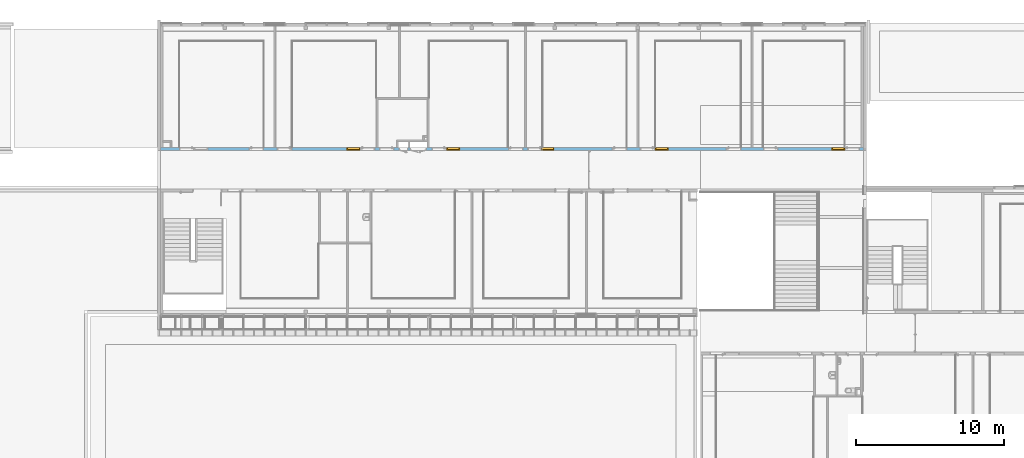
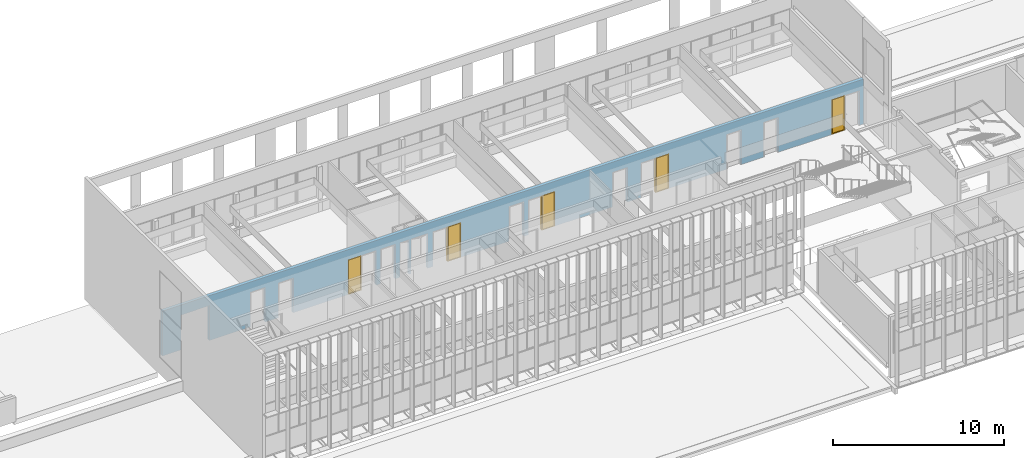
# One storey, part 61 of 106: 5 windows, 21 openings, plus 1 element that does not belong to this part.
"""IFC2X3 building model written with IfcOpenShell, lengths in centimetres."""

from ifc_helpers import new_model, entity, si_unit, converted_unit, derived_unit, direction, frame, frame_2d, origin, place, context, subcontext, project, spatial, polyline, rectangle, extrude, clip, bounded_halfspace, faceted_brep, source, transform, mapped, material, material_list, layer, layer_set, layer_usage, type_object, type_shapes, element, fill, save


model = new_model("IFC2X3")

# Units and contexts
model_context = context("Model", 3, precision=0.001, world=origin(), true_north=direction((6.12303176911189e-17, 1.0)))
body_context = subcontext(model_context, "Body", "Model", "MODEL_VIEW")
ifc_project = project(units=[si_unit("LENGTHUNIT", "METRE", prefix="CENTI"), si_unit("AREAUNIT", "SQUARE_METRE"), si_unit("VOLUMEUNIT", "CUBIC_METRE"), converted_unit("PLANEANGLEUNIT", "DEGREE", entity("IfcRatioMeasure", 0.0174532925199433), si_unit("PLANEANGLEUNIT", "RADIAN"), dimensions=[0, 0, 0, 0, 0, 0, 0]), si_unit("MASSUNIT", "GRAM", prefix="KILO"), derived_unit("MASSDENSITYUNIT", [(si_unit("MASSUNIT", "GRAM", prefix="KILO"), 1), (si_unit("LENGTHUNIT", "METRE"), -3)]), si_unit("TIMEUNIT", "SECOND"), si_unit("FREQUENCYUNIT", "HERTZ"), si_unit("THERMODYNAMICTEMPERATUREUNIT", "DEGREE_CELSIUS"), derived_unit("THERMALTRANSMITTANCEUNIT", [(si_unit("MASSUNIT", "GRAM", prefix="KILO"), 1), (si_unit("THERMODYNAMICTEMPERATUREUNIT", "KELVIN"), -1), (si_unit("TIMEUNIT", "SECOND"), -3)]), derived_unit("VOLUMETRICFLOWRATEUNIT", [(si_unit("LENGTHUNIT", "METRE"), 3), (si_unit("TIMEUNIT", "SECOND"), -1)]), si_unit("ELECTRICCURRENTUNIT", "AMPERE"), si_unit("ELECTRICVOLTAGEUNIT", "VOLT"), si_unit("POWERUNIT", "WATT"), si_unit("FORCEUNIT", "NEWTON", prefix="KILO"), si_unit("ILLUMINANCEUNIT", "LUX"), si_unit("LUMINOUSFLUXUNIT", "LUMEN"), si_unit("LUMINOUSINTENSITYUNIT", "CANDELA"), derived_unit("USERDEFINED", [(si_unit("MASSUNIT", "GRAM", prefix="KILO"), -1), (si_unit("LENGTHUNIT", "METRE"), -2), (si_unit("TIMEUNIT", "SECOND"), 3), (si_unit("LUMINOUSFLUXUNIT", "LUMEN"), 1)]), derived_unit("LINEARVELOCITYUNIT", [(si_unit("LENGTHUNIT", "METRE"), 1), (si_unit("TIMEUNIT", "SECOND"), -1)]), si_unit("PRESSUREUNIT", "PASCAL"), derived_unit("USERDEFINED", [(si_unit("LENGTHUNIT", "METRE"), -2), (si_unit("MASSUNIT", "GRAM", prefix="KILO"), 1), (si_unit("TIMEUNIT", "SECOND"), -2)])], contexts=[model_context])

# Site, building, storey
site_placement = place(None, frame((-2781.94577612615, 7442.24238424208, 0.0)))
site = spatial("IfcSite", under=ifc_project, at=site_placement, Name="Default", CompositionType="ELEMENT")
building_placement = place(site_placement, origin())
building = spatial("IfcBuilding", under=site, at=building_placement, CompositionType="ELEMENT")
storey_placement = place(building_placement, frame((0.0, 0.0, 422.0)))
storey = spatial("IfcBuildingStorey", under=building, at=storey_placement, Name="Toiture - Cuisine", CompositionType="ELEMENT", Elevation=421.999999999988)

# Wall, openings, windows
ifc_material_1 = material(Name="01 - Maçonnerie")
ifc_layer = layer(ifc_material_1, 20.0)
ifc_layer_set = layer_set([ifc_layer], Name="Mur de base:04 - Structure - béton - 20cm")
ifc_layer_usage = layer_usage(ifc_layer_set, "AXIS2", "NEGATIVE", 10.0)
wall_type = type_object("IfcWallType", Name="Mur de base:04 - Structure - béton - 20cm", PredefinedType="STANDARD", material=ifc_layer_set)
wall_placement = place(building_placement, frame((-8409.49987766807, -820.048500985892, 422.0)))
wall = element("IfcWallStandardCase", 1, at=wall_placement, inside=storey, type_object=wall_type, material=ifc_layer_usage, Name="Mur de base:04 - Structure - béton - 20cm", ObjectType="Mur de base:04 - Structure - béton - 20cm", context=body_context, shape_type="Clipping", body=[
    clip(extrude(rectangle(XDim=4741.49999798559, YDim=20.0, at=frame_2d((2370.74999899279, 2.04281036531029e-14), x_axis=(-1.0, 0.0))), origin(), (0.0, 0.0, 1.0), 321.0), bounded_halfspace(frame((4741.49999798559, -10.0, 321.0), z_axis=(0.0, 0.0, -1.0), x_axis=(0.0, 1.0, 0.0)), True, frame((4741.49999798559, -10.0, 321.0)), polyline([(0.0, 0.0), (0.0, 20.0), (-15.3000000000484, 20.0), (-125.300000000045, 20.0), (-127.300000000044, 20.0), (-675.800000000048, 20.0), (-677.800000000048, 20.0), (-745.800000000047, 20.0), (-755.800000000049, 20.0), (-825.800000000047, 20.0), (-827.800000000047, 20.0), (-1403.80000000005, 20.0), (-1405.80000000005, 20.0), (-1516.49999791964, 20.0), (-1526.49999791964, 20.0), (-1595.78709704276, 20.0), (-1597.78709704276, 20.0), (-2163.80000000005, 20.0), (-2165.80000000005, 20.0), (-2275.80000000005, 20.0), (-2285.80000000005, 20.0), (-2395.80000000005, 20.0), (-2397.80000000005, 20.0), (-2931.80000000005, 20.0), (-2941.80000000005, 20.0), (-3060.80000000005, 20.0), (-3070.80000000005, 20.0), (-3137.80000000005, 20.0), (-3147.80000000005, 20.0), (-3275.80000000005, 20.0), (-3285.80000000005, 20.0), (-3416.49999791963, 20.0), (-3535.80000000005, 20.0), (-3545.80000000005, 20.0), (-3611.80000000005, 20.0), (-3853.80000000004, 20.0), (-3855.80000000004, 20.0), (-3965.80000000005, 20.0), (-3975.80000000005, 20.0), (-4044.30000000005, 20.0), (-4046.30000000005, 20.0), (-4614.19999798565, 20.0), (-4616.19999798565, 20.0), (-4666.19999798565, 20.0), (-4676.19999798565, 20.0), (-4726.19999798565, 20.0), (-4741.49999798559, 20.0), (-4741.49999798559, 0.0), (-1854.0, 0.0), (-1844.0, 0.0), (-1840.0, 0.0), (0.0, 0.0)]))),
])
opening_1_placement = place(wall_placement, frame((1669.50000006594, 10.0, 0.0)))
element("IfcOpeningElement", 2, at=opening_1_placement, cuts=wall, Name="Int. Simple:PP Placard (0.55m x 2.50m):1", ObjectType="Opening", context=body_context, shape_type="SweptSolid", body=[
    extrude(rectangle(XDim=248.500000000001, YDim=61.9999999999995, at=frame_2d((124.250000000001, 30.9999999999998), x_axis=(1.0, 0.0))), frame((0.0, 0.0, 0.0), z_axis=(0.0, -1.0, 0.0), x_axis=(0.0, 0.0, 1.0)), (0.0, 0.0, 1.0), 20.0),
])
opening_2_placement = place(wall_placement, frame((1794.50000006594, 10.0, 0.0)))
element("IfcOpeningElement", 3, at=opening_2_placement, cuts=wall, Name="Int. Double:PP Placard (1.05m x 2.50m):1", ObjectType="Opening", context=body_context, shape_type="SweptSolid", body=[
    extrude(rectangle(XDim=248.500000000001, YDim=112.0, at=frame_2d((124.250000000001, 56.0000000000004), x_axis=(1.0, 0.0))), frame((0.0, 0.0, 0.0), z_axis=(0.0, -1.0, 0.0), x_axis=(0.0, 0.0, 1.0)), (0.0, 0.0, 1.0), 20.0),
])
opening_3_placement = place(wall_placement, frame((126.799999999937, -10.0, 0.0)))
element("IfcOpeningElement", 4, at=opening_3_placement, cuts=wall, Name="Int. Simple:PV (0.93m x 2.50m):1", ObjectType="Opening", context=body_context, shape_type="SweptSolid", body=[
    extrude(rectangle(XDim=248.500000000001, YDim=99.9999999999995, at=frame_2d((124.250000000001, 50.0), x_axis=(1.0, 0.0))), frame((0.0, 0.0, 0.0), z_axis=(0.0, 1.0, 0.0), x_axis=(0.0, 0.0, 1.0)), (0.0, 0.0, 1.0), 20.0),
])
opening_4_placement = place(wall_placement, frame((595.699997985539, -10.0, 0.0)))
element("IfcOpeningElement", 5, at=opening_4_placement, cuts=wall, Name="Int. Simple:PV (0.93m x 2.50m):1", ObjectType="Opening", context=body_context, shape_type="SweptSolid", body=[
    extrude(rectangle(XDim=248.500000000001, YDim=99.9999999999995, at=frame_2d((124.250000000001, 49.9999999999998), x_axis=(1.0, 0.0))), frame((0.0, 0.0, 0.0), z_axis=(0.0, 1.0, 0.0), x_axis=(0.0, 0.0, 1.0)), (0.0, 0.0, 1.0), 20.0),
])
opening_5_placement = place(wall_placement, frame((785.699997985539, -10.0, 0.0)))
element("IfcOpeningElement", 6, at=opening_5_placement, cuts=wall, Name="Int. Simple:PV (0.93m x 2.50m):1", ObjectType="Opening", context=body_context, shape_type="SweptSolid", body=[
    extrude(rectangle(XDim=248.500000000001, YDim=99.9999999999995, at=frame_2d((124.250000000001, 50.0), x_axis=(1.0, 0.0))), frame((0.0, 0.0, 0.0), z_axis=(0.0, 1.0, 0.0), x_axis=(0.0, 0.0, 1.0)), (0.0, 0.0, 1.0), 20.0),
])
opening_6_placement = place(wall_placement, frame((1345.69999798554, -10.0, 0.0)))
element("IfcOpeningElement", 7, at=opening_6_placement, cuts=wall, Name="Int. Simple:PV (0.93m x 2.50m):1", ObjectType="Opening", context=body_context, shape_type="SweptSolid", body=[
    extrude(rectangle(XDim=248.500000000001, YDim=99.9999999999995, at=frame_2d((124.250000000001, 49.9999999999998), x_axis=(1.0, 0.0))), frame((0.0, 0.0, 0.0), z_axis=(0.0, 1.0, 0.0), x_axis=(0.0, 0.0, 1.0)), (0.0, 0.0, 1.0), 20.0),
])
opening_7_placement = place(wall_placement, frame((1475.69999798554, -10.0, 0.0)))
element("IfcOpeningElement", 8, at=opening_7_placement, cuts=wall, Name="Int. Simple:PP simple (0.93m x 2.50m):1", ObjectType="Opening", context=body_context, shape_type="SweptSolid", body=[
    extrude(rectangle(XDim=248.500000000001, YDim=99.9999999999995, at=frame_2d((124.250000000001, 50.0), x_axis=(1.0, 0.0))), frame((0.0, 0.0, 0.0), z_axis=(0.0, 1.0, 0.0), x_axis=(0.0, 0.0, 1.0)), (0.0, 0.0, 1.0), 20.0),
])
opening_8_placement = place(wall_placement, frame((1829.69999798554, -10.0, 0.0)))
element("IfcOpeningElement", 9, at=opening_8_placement, cuts=wall, Name="Int. Simple:PV (0.93m x 2.50m):1", ObjectType="Opening", context=body_context, shape_type="SweptSolid", body=[
    extrude(rectangle(XDim=248.500000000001, YDim=99.9999999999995, at=frame_2d((124.250000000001, 50.0), x_axis=(1.0, 0.0))), frame((0.0, 0.0, 0.0), z_axis=(0.0, 1.0, 0.0), x_axis=(0.0, 0.0, 1.0)), (0.0, 0.0, 1.0), 20.0),
])
opening_9_placement = place(wall_placement, frame((2345.69999798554, -10.0, 0.0)))
element("IfcOpeningElement", 10, at=opening_9_placement, cuts=wall, Name="Int. Simple:PV (0.93m x 2.50m):1", ObjectType="Opening", context=body_context, shape_type="SweptSolid", body=[
    extrude(rectangle(XDim=248.500000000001, YDim=99.9999999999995, at=frame_2d((124.250000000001, 49.9999999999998), x_axis=(1.0, 0.0))), frame((0.0, 0.0, 0.0), z_axis=(0.0, 1.0, 0.0), x_axis=(0.0, 0.0, 1.0)), (0.0, 0.0, 1.0), 20.0),
])
opening_10_placement = place(wall_placement, frame((2475.69999798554, -10.0, 0.0)))
element("IfcOpeningElement", 11, at=opening_10_placement, cuts=wall, Name="Int. Simple:PV (0.93m x 2.50m):1", ObjectType="Opening", context=body_context, shape_type="SweptSolid", body=[
    extrude(rectangle(XDim=248.500000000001, YDim=99.9999999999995, at=frame_2d((124.250000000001, 50.0), x_axis=(1.0, 0.0))), frame((0.0, 0.0, 0.0), z_axis=(0.0, 1.0, 0.0), x_axis=(0.0, 0.0, 1.0)), (0.0, 0.0, 1.0), 20.0),
])
opening_11_placement = place(wall_placement, frame((3045.69999798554, -10.0, 0.0)))
element("IfcOpeningElement", 12, at=opening_11_placement, cuts=wall, Name="Int. Simple:PV (0.93m x 2.50m):1", ObjectType="Opening", context=body_context, shape_type="SweptSolid", body=[
    extrude(rectangle(XDim=248.500000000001, YDim=99.9999999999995, at=frame_2d((124.250000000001, 49.9999999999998), x_axis=(1.0, 0.0))), frame((0.0, 0.0, 0.0), z_axis=(0.0, 1.0, 0.0), x_axis=(0.0, 0.0, 1.0)), (0.0, 0.0, 1.0), 20.0),
])
opening_12_placement = place(wall_placement, frame((3235.69999798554, -10.0, 0.0)))
element("IfcOpeningElement", 13, at=opening_12_placement, cuts=wall, Name="Int. Simple:PV (0.93m x 2.50m):1", ObjectType="Opening", context=body_context, shape_type="SweptSolid", body=[
    extrude(rectangle(XDim=248.500000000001, YDim=99.9999999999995, at=frame_2d((124.250000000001, 50.0), x_axis=(1.0, 0.0))), frame((0.0, 0.0, 0.0), z_axis=(0.0, 1.0, 0.0), x_axis=(0.0, 0.0, 1.0)), (0.0, 0.0, 1.0), 20.0),
])
opening_13_placement = place(wall_placement, frame((3815.69999798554, -10.0, 0.0)))
element("IfcOpeningElement", 14, at=opening_13_placement, cuts=wall, Name="Int. Simple:PV (0.93m x 2.50m):1", ObjectType="Opening", context=body_context, shape_type="SweptSolid", body=[
    extrude(rectangle(XDim=248.500000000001, YDim=99.9999999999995, at=frame_2d((124.250000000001, 49.9999999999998), x_axis=(1.0, 0.0))), frame((0.0, 0.0, 0.0), z_axis=(0.0, 1.0, 0.0), x_axis=(0.0, 0.0, 1.0)), (0.0, 0.0, 1.0), 20.0),
])
opening_14_placement = place(wall_placement, frame((4065.69999798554, -10.0, 0.0)))
element("IfcOpeningElement", 15, at=opening_14_placement, cuts=wall, Name="Int. Simple:PV (0.93m x 2.50m):1", ObjectType="Opening", context=body_context, shape_type="SweptSolid", body=[
    extrude(rectangle(XDim=248.500000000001, YDim=99.9999999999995, at=frame_2d((124.250000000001, 50.0), x_axis=(1.0, 0.0))), frame((0.0, 0.0, 0.0), z_axis=(0.0, 1.0, 0.0), x_axis=(0.0, 0.0, 1.0)), (0.0, 0.0, 1.0), 20.0),
])
opening_15_placement = place(wall_placement, frame((4616.19999798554, -10.0, 0.0)))
element("IfcOpeningElement", 16, at=opening_15_placement, cuts=wall, Name="Int. Simple:PV (0.93m x 2.50m):1", ObjectType="Opening", context=body_context, shape_type="SweptSolid", body=[
    extrude(rectangle(XDim=248.500000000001, YDim=99.9999999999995, at=frame_2d((124.250000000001, 49.9999999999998), x_axis=(1.0, 0.0))), frame((0.0, 0.0, 0.0), z_axis=(0.0, 1.0, 0.0), x_axis=(0.0, 0.0, 1.0)), (0.0, 0.0, 1.0), 20.0),
])
opening_16_placement = place(wall_placement, frame((1255.69999798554, -10.0, 0.0)))
opening_16 = element("IfcOpeningElement", 17, at=opening_16_placement, cuts=wall, Name="châssis intérieur vitré:châssis intérieur vitré (h=270) R+1:1", ObjectType="Opening", context=body_context, shape_type="SweptSolid", body=[
    extrude(rectangle(XDim=250.0, YDim=89.9999999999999, at=frame_2d((125.0, 45.0), x_axis=(1.0, 0.0))), frame((0.0, 0.0, 0.0), z_axis=(0.0, 1.0, 0.0), x_axis=(0.0, 0.0, 1.0)), (0.0, 0.0, 1.0), 20.0),
])
opening_17_placement = place(wall_placement, frame((1929.69999798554, -10.0, 0.0)))
opening_17 = element("IfcOpeningElement", 18, at=opening_17_placement, cuts=wall, Name="châssis intérieur vitré:châssis intérieur vitré (h=270) R+1:1", ObjectType="Opening", context=body_context, shape_type="SweptSolid", body=[
    extrude(rectangle(XDim=250.0, YDim=89.9999999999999, at=frame_2d((125.0, 45.0), x_axis=(1.0, 0.0))), frame((0.0, 0.0, 0.0), z_axis=(0.0, 1.0, 0.0), x_axis=(0.0, 0.0, 1.0)), (0.0, 0.0, 1.0), 20.0),
])
opening_18_placement = place(wall_placement, frame((4526.19999798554, -10.0, 0.0)))
opening_18 = element("IfcOpeningElement", 19, at=opening_18_placement, cuts=wall, Name="châssis intérieur vitré:châssis intérieur vitré (h=270) R+1:1", ObjectType="Opening", context=body_context, shape_type="SweptSolid", body=[
    extrude(rectangle(XDim=250.0, YDim=89.9999999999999, at=frame_2d((125.0, 45.0000000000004), x_axis=(1.0, 0.0))), frame((0.0, 0.0, 0.0), z_axis=(0.0, 1.0, 0.0), x_axis=(0.0, 0.0, 1.0)), (0.0, 0.0, 1.0), 20.0),
])
opening_19_placement = place(wall_placement, frame((3335.69999798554, -10.0, 0.0)))
opening_19 = element("IfcOpeningElement", 20, at=opening_19_placement, cuts=wall, Name="châssis intérieur vitré:châssis intérieur vitré (h=270) R+1:1", ObjectType="Opening", context=body_context, shape_type="SweptSolid", body=[
    extrude(rectangle(XDim=250.0, YDim=89.9999999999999, at=frame_2d((125.0, 45.0000000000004), x_axis=(1.0, 0.0))), frame((0.0, 0.0, 0.0), z_axis=(0.0, 1.0, 0.0), x_axis=(0.0, 0.0, 1.0)), (0.0, 0.0, 1.0), 20.0),
])
opening_20_placement = place(wall_placement, frame((2565.69999798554, -10.0, 0.0)))
opening_20 = element("IfcOpeningElement", 21, at=opening_20_placement, cuts=wall, Name="châssis intérieur vitré:châssis intérieur vitré (h=270) R+1:1", ObjectType="Opening", context=body_context, shape_type="SweptSolid", body=[
    extrude(rectangle(XDim=250.0, YDim=89.9999999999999, at=frame_2d((125.0, 45.0000000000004), x_axis=(1.0, 0.0))), frame((0.0, 0.0, 0.0), z_axis=(0.0, 1.0, 0.0), x_axis=(0.0, 0.0, 1.0)), (0.0, 0.0, 1.0), 20.0),
])
opening_21_placement = place(wall_placement, frame((226.799999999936, -10.0, 0.0)))
element("IfcOpeningElement", 22, at=opening_21_placement, cuts=wall, Name="châssis intérieur vitré:châssis intérieur vitré (h=270) R+1:1", ObjectType="Opening", context=body_context, shape_type="SweptSolid", body=[
    extrude(rectangle(XDim=250.0, YDim=91.4999999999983, at=frame_2d((125.0, 45.7499999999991), x_axis=(1.0, 0.0))), frame((0.0, 0.0, 0.0), z_axis=(0.0, 1.0, 0.0), x_axis=(0.0, 0.0, 1.0)), (0.0, 0.0, 1.0), 20.0),
])
ifc_material_2 = material(Name="Verre")
ifc_material_3 = material(Name="huisserie bois")
ifc_material_list_1 = material_list([ifc_material_2, ifc_material_3])
ifc_material_list_2 = material_list([ifc_material_2, ifc_material_3])
window_style_1 = type_object("IfcWindowStyle", Name="châssis intérieur vitré (h=270) R+1", ConstructionType="NOTDEFINED", OperationType="NOTDEFINED", ParameterTakesPrecedence=False, Sizeable=False, material=ifc_material_list_2)
shared_shape_1 = source(origin(), body_context, "Body", "Brep", [
    faceted_brep([(3.0, 5.0, 247.0), (87.0, 5.0, 247.0), (87.0, 5.0, 3.0), (3.0, 5.0, 3.0), (3.0, 2.0, 3.0), (3.0, 2.0, 247.0), (87.0, 2.0, 3.0), (87.0, 2.0, 247.0)], [[[0, 1, 2, 3]], [[3, 4, 5, 0]], [[2, 6, 4, 3]], [[1, 7, 6, 2]], [[5, 4, 6, 7]], [[0, 5, 7, 1]]]),
    faceted_brep([(3.0, 2.0, 247.0), (3.0, 2.0, 3.0), (3.0, 0.0, 3.0), (3.0, 0.0, 247.0), (87.0, 0.0, 3.0), (87.0, 0.0, 247.0), (5.0, 0.0, 5.0), (5.0, 0.0, 245.0), (85.0, 0.0, 245.0), (85.0, 0.0, 5.0), (87.0, 2.0, 3.0), (87.0, 2.0, 247.0), (5.0, 2.0, 245.0), (5.0, 2.0, 5.0), (85.0, 2.0, 5.0), (85.0, 2.0, 245.0)], [[[0, 1, 2, 3]], [[3, 2, 4, 5], [6, 7, 8, 9]], [[1, 10, 4, 2]], [[1, 0, 11, 10], [12, 13, 14, 15]], [[7, 6, 13, 12]], [[6, 9, 14, 13]], [[10, 11, 5, 4]], [[9, 8, 15, 14]], [[11, 0, 3, 5]], [[8, 7, 12, 15]]]),
    faceted_brep([(5.0, 5.0, 245.0), (5.0, 5.0, 5.0), (5.0, 20.0, 5.0), (5.0, 20.0, 245.0), (85.0, 20.0, 5.0), (85.0, 20.0, 245.0), (0.0, 20.0, 0.0), (0.0, 20.0, 250.0), (90.0, 20.0, 250.0), (90.0, 20.0, 0.0), (85.0, 5.0, 5.0), (85.0, 5.0, 245.0), (3.0, 5.0, 247.0), (3.0, 5.0, 3.0), (87.0, 5.0, 3.0), (87.0, 5.0, 247.0), (3.0, 0.0, 247.0), (3.0, 0.0, 3.0), (87.0, 0.0, 3.0), (87.0, 0.0, 247.0), (0.0, 0.0, 250.0), (0.0, 0.0, 0.0), (90.0, 0.0, 0.0), (90.0, 0.0, 250.0)], [[[0, 1, 2, 3]], [[3, 2, 4, 5], [6, 7, 8, 9]], [[1, 10, 4, 2]], [[1, 0, 11, 10], [12, 13, 14, 15]], [[16, 17, 13, 12]], [[17, 18, 14, 13]], [[17, 16, 19, 18], [20, 21, 22, 23]], [[7, 6, 21, 20]], [[6, 9, 22, 21]], [[10, 11, 5, 4]], [[18, 19, 15, 14]], [[9, 8, 23, 22]], [[11, 0, 3, 5]], [[19, 16, 12, 15]], [[8, 7, 20, 23]]], outer=[[True], [False, True], [True], [False, True], [True], [True], [False, True], [True], [True], [True], [True], [True], [True], [True], [True]]),
])
type_shapes(window_style_1, [shared_shape_1])
window_1_placement = place(opening_16_placement, origin())
window_1 = element("IfcWindow", 23, at=window_1_placement, inside=storey, type_object=window_style_1, material=ifc_material_list_1, Name="châssis intérieur vitré:châssis intérieur vitré (h=270) R+1", ObjectType="châssis intérieur vitré:châssis intérieur vitré (h=270) R+1", OverallHeight=250.0, OverallWidth=90.0000000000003, context=body_context, shape_type="MappedRepresentation", body=[
    mapped(shared_shape_1, transform((0.0, 0.0, 0.0), scale=1.0)),
])
fill(opening_16, window_1)
ifc_material_list_3 = material_list([ifc_material_2, ifc_material_3])
window_2_placement = place(opening_17_placement, origin())
window_2 = element("IfcWindow", 24, at=window_2_placement, inside=storey, type_object=window_style_1, material=ifc_material_list_3, Name="châssis intérieur vitré:châssis intérieur vitré (h=270) R+1", ObjectType="châssis intérieur vitré:châssis intérieur vitré (h=270) R+1", OverallHeight=250.0, OverallWidth=90.0000000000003, context=body_context, shape_type="MappedRepresentation", body=[
    mapped(shared_shape_1, transform((0.0, 0.0, 0.0), scale=1.0)),
])
fill(opening_17, window_2)
ifc_material_list_4 = material_list([ifc_material_2, ifc_material_3])
ifc_material_list_5 = material_list([ifc_material_2, ifc_material_3])
window_style_2 = type_object("IfcWindowStyle", Name="châssis intérieur vitré (h=270) R+1", ConstructionType="NOTDEFINED", OperationType="NOTDEFINED", ParameterTakesPrecedence=False, Sizeable=False, material=ifc_material_list_5)
shared_shape_2 = source(origin(), body_context, "Body", "Brep", [
    faceted_brep([(87.0, 5.0, 247.0), (87.0, 5.0, 3.0), (3.0, 5.0, 3.0), (3.0, 5.0, 247.0), (87.0, 2.0, 247.0), (87.0, 2.0, 3.0), (3.0, 2.0, 3.0), (3.0, 2.0, 247.0)], [[[0, 1, 2, 3]], [[1, 0, 4, 5]], [[2, 1, 5, 6]], [[3, 2, 6, 7]], [[4, 7, 6, 5]], [[0, 3, 7, 4]]]),
    faceted_brep([(87.0, 2.0, 247.0), (87.0, 0.0, 247.0), (87.0, 0.0, 3.0), (87.0, 2.0, 3.0), (85.0, 0.0, 5.0), (5.0, 0.0, 5.0), (5.0, 0.0, 245.0), (85.0, 0.0, 245.0), (3.0, 0.0, 247.0), (3.0, 0.0, 3.0), (3.0, 2.0, 3.0), (3.0, 2.0, 247.0), (85.0, 2.0, 245.0), (5.0, 2.0, 245.0), (5.0, 2.0, 5.0), (85.0, 2.0, 5.0)], [[[0, 1, 2, 3]], [[4, 5, 6, 7], [1, 8, 9, 2]], [[3, 2, 9, 10]], [[3, 10, 11, 0], [12, 13, 14, 15]], [[7, 12, 15, 4]], [[4, 15, 14, 5]], [[10, 9, 8, 11]], [[5, 14, 13, 6]], [[11, 8, 1, 0]], [[6, 13, 12, 7]]], outer=[[True], [False, True], [True], [True, False], [True], [True], [True], [True], [True], [True]]),
    faceted_brep([(85.0, 5.0, 245.0), (85.0, 20.0, 245.0), (85.0, 20.0, 5.0), (85.0, 5.0, 5.0), (90.0, 20.0, 0.0), (0.0, 20.0, 0.0), (0.0, 20.0, 250.0), (90.0, 20.0, 250.0), (5.0, 20.0, 245.0), (5.0, 20.0, 5.0), (5.0, 5.0, 5.0), (5.0, 5.0, 245.0), (87.0, 5.0, 247.0), (3.0, 5.0, 247.0), (3.0, 5.0, 3.0), (87.0, 5.0, 3.0), (87.0, 0.0, 247.0), (87.0, 0.0, 3.0), (3.0, 0.0, 3.0), (3.0, 0.0, 247.0), (90.0, 0.0, 250.0), (0.0, 0.0, 250.0), (0.0, 0.0, 0.0), (90.0, 0.0, 0.0)], [[[0, 1, 2, 3]], [[4, 5, 6, 7], [1, 8, 9, 2]], [[3, 2, 9, 10]], [[3, 10, 11, 0], [12, 13, 14, 15]], [[16, 12, 15, 17]], [[17, 15, 14, 18]], [[17, 18, 19, 16], [20, 21, 22, 23]], [[7, 20, 23, 4]], [[4, 23, 22, 5]], [[10, 9, 8, 11]], [[18, 14, 13, 19]], [[5, 22, 21, 6]], [[11, 8, 1, 0]], [[19, 13, 12, 16]], [[6, 21, 20, 7]]], outer=[[True], [True, False], [True], [False, True], [True], [True], [False, True], [True], [True], [True], [True], [True], [True], [True], [True]]),
])
type_shapes(window_style_2, [shared_shape_2])
window_3_placement = place(opening_18_placement, origin())
window_3 = element("IfcWindow", 25, at=window_3_placement, inside=storey, type_object=window_style_2, material=ifc_material_list_4, Name="châssis intérieur vitré:châssis intérieur vitré (h=270) R+1", ObjectType="châssis intérieur vitré:châssis intérieur vitré (h=270) R+1", OverallHeight=250.0, OverallWidth=89.9999999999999, context=body_context, shape_type="MappedRepresentation", body=[
    mapped(shared_shape_2, transform((0.0, 0.0, 0.0), scale=1.0)),
])
fill(opening_18, window_3)
ifc_material_list_6 = material_list([ifc_material_2, ifc_material_3])
window_4_placement = place(opening_19_placement, origin())
window_4 = element("IfcWindow", 26, at=window_4_placement, inside=storey, type_object=window_style_2, material=ifc_material_list_6, Name="châssis intérieur vitré:châssis intérieur vitré (h=270) R+1", ObjectType="châssis intérieur vitré:châssis intérieur vitré (h=270) R+1", OverallHeight=250.0, OverallWidth=90.0000000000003, context=body_context, shape_type="MappedRepresentation", body=[
    mapped(shared_shape_2, transform((0.0, 0.0, 0.0), scale=1.0)),
])
fill(opening_19, window_4)
ifc_material_list_7 = material_list([ifc_material_2, ifc_material_3])
window_5_placement = place(opening_20_placement, origin())
window_5 = element("IfcWindow", 27, at=window_5_placement, inside=storey, type_object=window_style_2, material=ifc_material_list_7, Name="châssis intérieur vitré:châssis intérieur vitré (h=270) R+1", ObjectType="châssis intérieur vitré:châssis intérieur vitré (h=270) R+1", OverallHeight=250.0, OverallWidth=90.0000000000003, context=body_context, shape_type="MappedRepresentation", body=[
    mapped(shared_shape_2, transform((0.0, 0.0, 0.0), scale=1.0)),
])
fill(opening_20, window_5)

save(model, "model.ifc")
